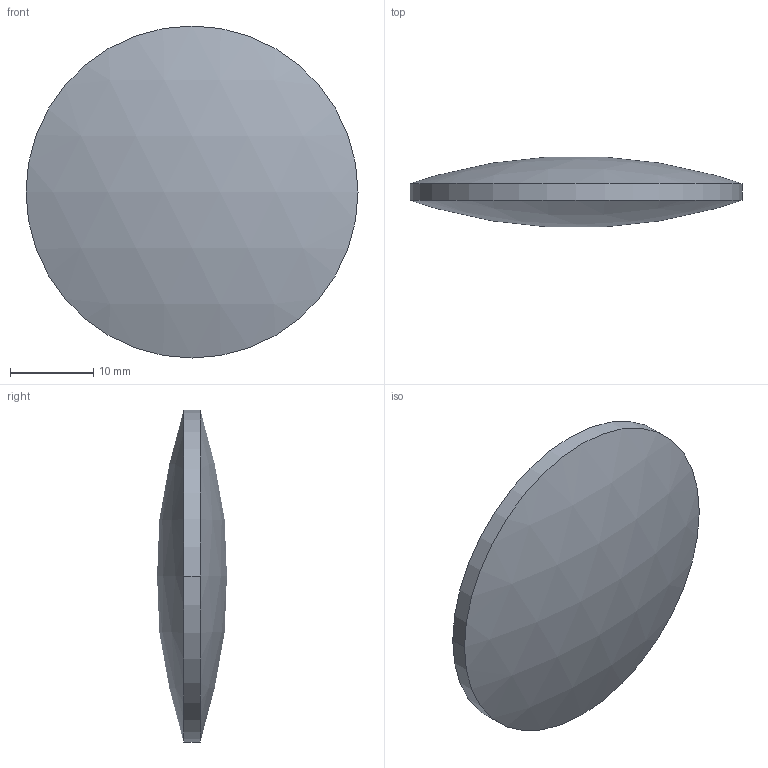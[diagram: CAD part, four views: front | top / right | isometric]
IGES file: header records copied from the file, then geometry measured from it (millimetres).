
Global section: file name: No Iges File Name specified; native system: AutoDesk Inventor R12.0; preprocessor: AutoDesk Inventor Iges Exporter R12.0; author: No Author specified; organization: No Organization specified; date: 20090514.143757; units: millimetre
Bounding box: 40 x 8.42 x 40 mm (x, y, z)
Volume: 6699.4 mm3; surface area: 2833.3 mm2
Topology: 1 solids, 1 shells, 4 faces, 6 edges, 4 vertices
Faces by surface type: cylinder 2, sphere 2
